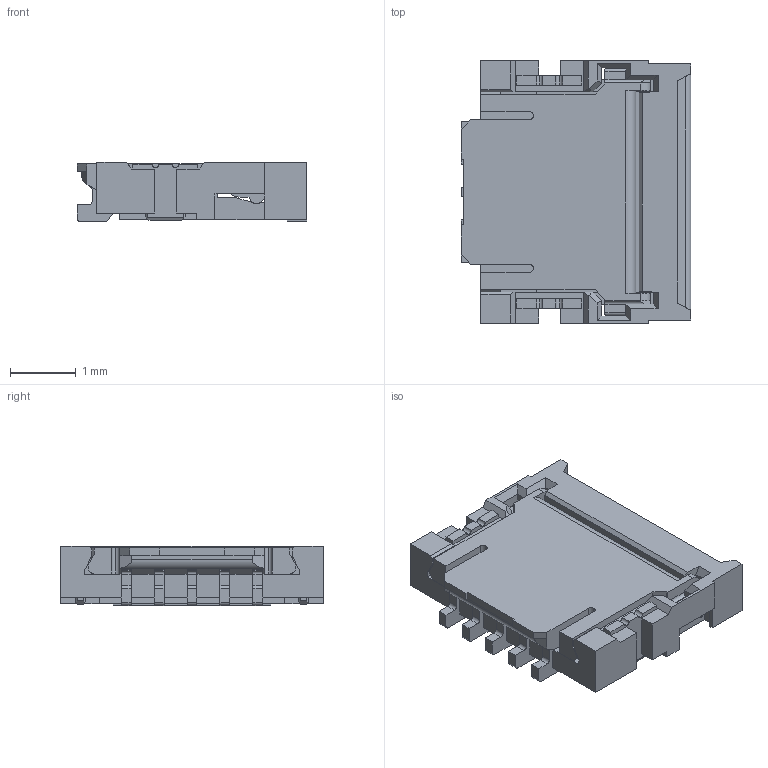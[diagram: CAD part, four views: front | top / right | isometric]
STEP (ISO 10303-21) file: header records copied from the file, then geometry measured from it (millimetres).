
FILE_DESCRIPTION (( 'STEP AP214' ), '1' );
FILE_NAME ('006277005001.STEP', '2025-11-06T05:31:11', ( '' ), ( '' ), 'SwSTEP 2.0', 'SolidWorks 2023', '' );
FILE_SCHEMA (( 'AUTOMOTIVE_DESIGN' ));
Length unit declared in the file: millimetre
Products named in the file (1): 006277005001
Bounding box: 3.5 x 4 x 0.9 mm (x, y, z)
Volume: 7.8 mm3; surface area: 66.3 mm2
Topology: 1 solids, 1 shells, 330 faces, 968 edges, 634 vertices
Faces by surface type: plane 266, cylinder 64
Entity records: 14277 total; most frequent: CARTESIAN_POINT 2029, ORIENTED_EDGE 1936, DIRECTION 1722, EDGE_CURVE 968, VECTOR 836, LINE 836, VERTEX_POINT 634, AXIS2_PLACEMENT_3D 443
